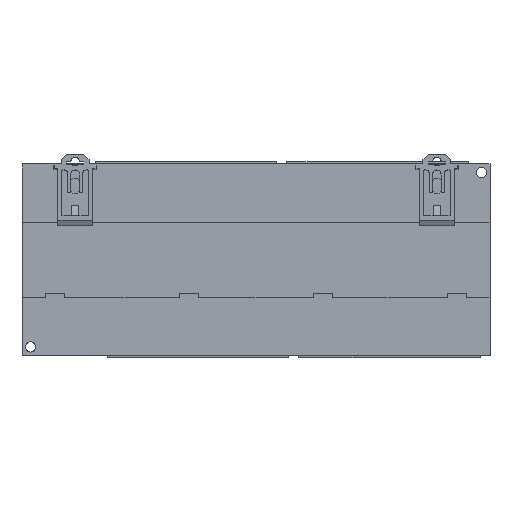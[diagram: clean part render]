
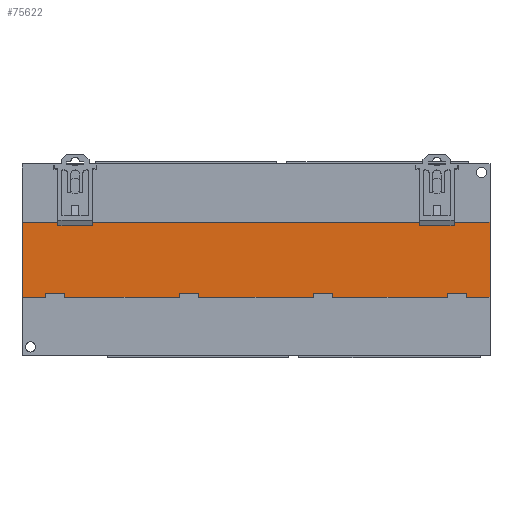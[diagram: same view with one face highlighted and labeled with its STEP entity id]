
A CAD part, front view. The second image highlights one B-rep face of the part: STEP entity #75622.
In plain terms, the highlighted planar face has unit normal (0, -1, 0).
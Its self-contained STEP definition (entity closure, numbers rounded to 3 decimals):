
#75341 = ORIENTED_EDGE ( 'NONE', *, *, #76779, .T. ) ;
#75411 = VERTEX_POINT ( 'NONE', #116954 ) ;
#75612 = EDGE_CURVE ( 'NONE', #76231, #76056, #117041, .T. ) ;
#75622 = ADVANCED_FACE ( 'NONE', ( #117112 ), #117101, .F. ) ;
#75634 = ORIENTED_EDGE ( 'NONE', *, *, #75915, .T. ) ;
#75658 = ORIENTED_EDGE ( 'NONE', *, *, #75612, .F. ) ;
#75681 = VERTEX_POINT ( 'NONE', #117076 ) ;
#75811 = EDGE_LOOP ( 'NONE', ( #75341, #75658, #75934, #75634 ) ) ;
#75853 = EDGE_CURVE ( 'NONE', #75411, #76231, #117214, .T. ) ;
#75915 = EDGE_CURVE ( 'NONE', #75411, #75681, #117287, .T. ) ;
#75934 = ORIENTED_EDGE ( 'NONE', *, *, #75853, .F. ) ;
#76056 = VERTEX_POINT ( 'NONE', #117409 ) ;
#76231 = VERTEX_POINT ( 'NONE', #117474 ) ;
#76779 = EDGE_CURVE ( 'NONE', #75681, #76056, #117855, .T. ) ;
#116954 = CARTESIAN_POINT ( 'NONE',  ( -110., -47.3, -17.7 ) ) ;
#117040 = CARTESIAN_POINT ( 'NONE',  ( -94.9, -47.3, 17.7 ) ) ;
#117041 = LINE ( 'NONE', #117040, #117104 ) ;
#117046 = AXIS2_PLACEMENT_3D ( 'NONE', #117192, #117189, #117187 ) ;
#117076 = CARTESIAN_POINT ( 'NONE',  ( 110., -47.3, -17.7 ) ) ;
#117101 = PLANE ( 'NONE',  #117046 ) ;
#117103 = DIRECTION ( 'NONE',  ( 1., 0., 0. ) ) ;
#117104 = VECTOR ( 'NONE', #117103, 1000. ) ;
#117112 = FACE_OUTER_BOUND ( 'NONE', #75811, .T. ) ;
#117187 = DIRECTION ( 'NONE',  ( 0., 0., 1. ) ) ;
#117189 = DIRECTION ( 'NONE',  ( 0., 1., 0. ) ) ;
#117192 = CARTESIAN_POINT ( 'NONE',  ( -110., -47.3, 17.7 ) ) ;
#117214 = LINE ( 'NONE', #117277, #117276 ) ;
#117274 = DIRECTION ( 'NONE',  ( 0., 0., 1. ) ) ;
#117276 = VECTOR ( 'NONE', #117274, 1000. ) ;
#117277 = CARTESIAN_POINT ( 'NONE',  ( -110., -47.3, 17.7 ) ) ;
#117287 = LINE ( 'NONE', #117376, #117370 ) ;
#117369 = DIRECTION ( 'NONE',  ( 1., 0., 0. ) ) ;
#117370 = VECTOR ( 'NONE', #117369, 1000. ) ;
#117376 = CARTESIAN_POINT ( 'NONE',  ( -110., -47.3, -17.7 ) ) ;
#117409 = CARTESIAN_POINT ( 'NONE',  ( 110., -47.3, 17.7 ) ) ;
#117474 = CARTESIAN_POINT ( 'NONE',  ( -110., -47.3, 17.7 ) ) ;
#117855 = LINE ( 'NONE', #117926, #117910 ) ;
#117910 = VECTOR ( 'NONE', #117925, 1000. ) ;
#117925 = DIRECTION ( 'NONE',  ( 0., 0., 1. ) ) ;
#117926 = CARTESIAN_POINT ( 'NONE',  ( 110., -47.3, 17.7 ) ) ;
